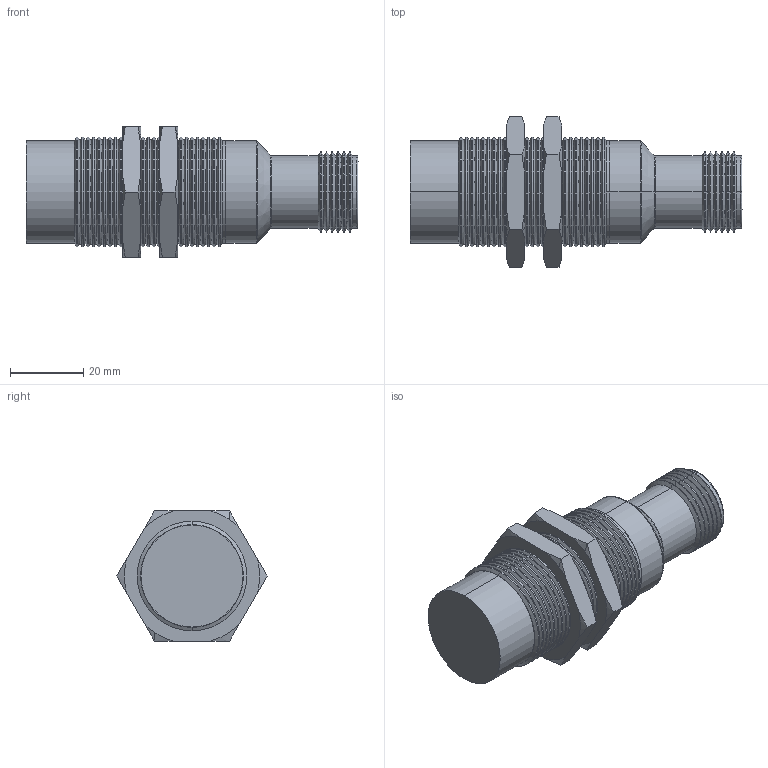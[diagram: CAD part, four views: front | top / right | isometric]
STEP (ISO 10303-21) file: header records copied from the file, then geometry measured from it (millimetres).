
FILE_DESCRIPTION (( 'STEP AP203' ), '1' );
FILE_NAME ('90-XXXX-038.STEP', '2015-10-28T13:25:09', ( 'Sam' ), ( 'Spade' ), 'SwSTEP 2.0', 'SolidWorks 2002296', '' );
FILE_SCHEMA (( 'CONFIG_CONTROL_DESIGN' ));
Length unit declared in the file: inch
Products named in the file (10): 90-XXXX-038; Imported376; Imported383; Imported377; Imported380; Imported379; Imported378; Imported375; Imported382; Imported381
Assembly tree (9 placements, depth 2):
  90-XXXX-038
    Imported375
    Imported381
    Imported378
    Imported377
    Imported380
    Imported382
    Imported379
    Imported383
    Imported376
Bounding box: 90.91 x 41.15 x 35.64 mm (x, y, z)
Volume: 53416.1 mm3; surface area: 20754.4 mm2
Topology: 9 solids, 9 shells, 356 faces, 753 edges, 417 vertices
Faces by surface type: cone 174, cylinder 100, bspline 44, plane 38
Entity records: 11007 total; most frequent: CARTESIAN_POINT 2404, DIRECTION 1705, ORIENTED_EDGE 1494, EDGE_CURVE 747, AXIS2_PLACEMENT_3D 694, VERTEX_POINT 417, CIRCLE 370, EDGE_LOOP 368
